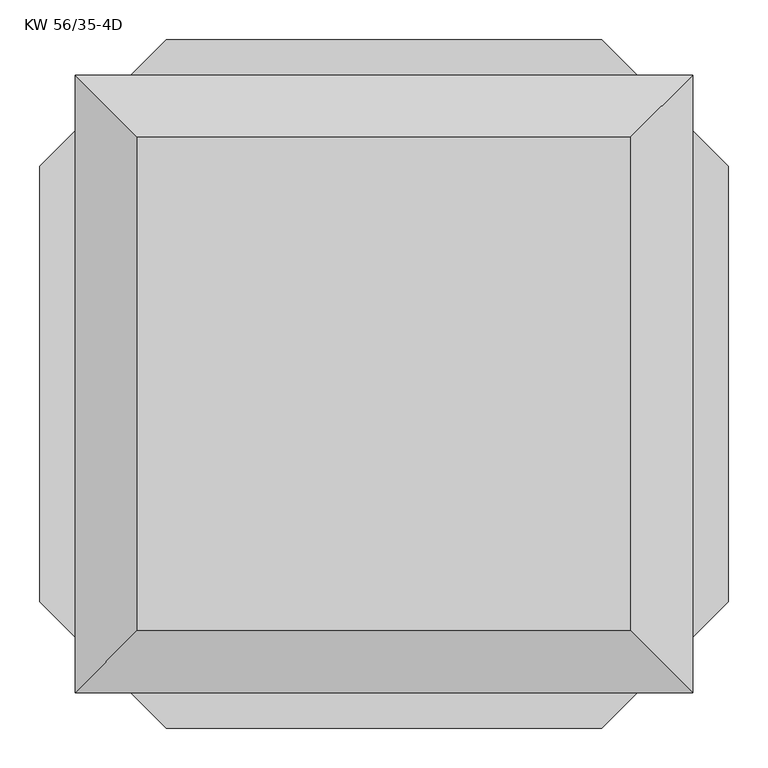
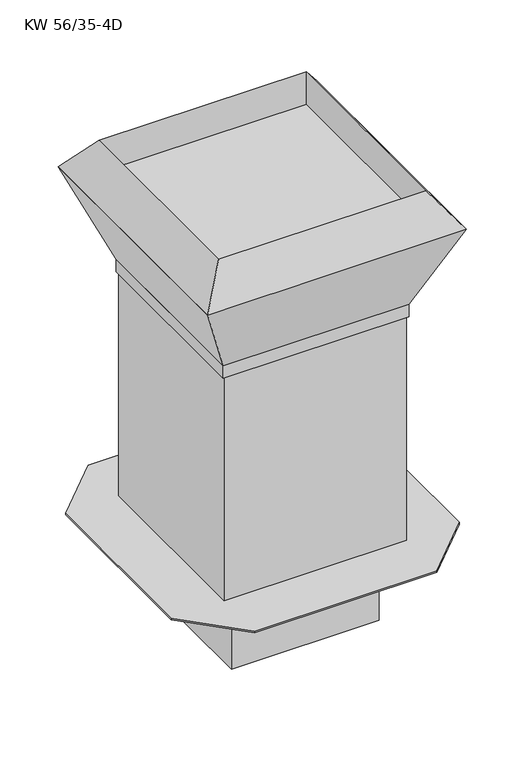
"""IFC4 building model written with IfcOpenShell, lengths in millimetres: proxy geometry, KORF_Вентилятор_Вытяжной_Крышный_KW : KW 56/35-4D."""

from ifc_helpers import new_model, si_unit, frame, origin, place, context, project, spatial, polyline, outline, extrude, faceted_brep, source, transform, mapped, element, save


def kw_56_35_4d_3cfab226(model_context):
    return source(origin(), model_context, "Body", "SolidModel", [
        faceted_brep([(222.5, 245.0, -1.0), (222.5, 222.5, -1.0), (-222.5, 222.5, -1.0), (-222.5, 245.0, -1.0), (222.5, -222.5, -1.0), (222.5, -245.0, -1.0), (-222.5, -245.0, -1.0), (-222.5, -222.5, -1.0), (-222.5, 245.0, 0.0), (222.5, 245.0, 0.0), (-222.5, 222.5, 0.0), (222.5, 222.5, 0.0), (-222.5, -245.0, 0.0), (-222.5, -222.5, 0.0), (222.5, -245.0, 0.0), (222.5, -222.5, 0.0), (-246.5, 222.5, 0.0), (-246.5, -222.5, 0.0), (245.0, -222.5, 0.0), (245.0, 222.5, 0.0), (221.0, 221.0, 0.0), (221.0, -221.0, 0.0), (-221.0, -221.0, 0.0), (-221.0, 221.0, 0.0), (-246.5, 222.5, -1.0), (-246.5, -222.5, -1.0), (245.0, -222.5, -1.0), (245.0, 222.5, -1.0), (222.5, -222.5, -264.0), (-222.5, -222.5, -264.0), (-222.5, 222.5, -264.0), (222.5, 222.5, -264.0), (221.0, 221.0, -264.0), (-221.0, 221.0, -264.0), (-221.0, -221.0, -264.0), (221.0, -221.0, -264.0)], [[[0, 1, 2, 3]], [[4, 5, 6, 7]], [[0, 3, 8, 9]], [[3, 2, 10, 8]], [[1, 0, 9, 11]], [[7, 6, 12, 13]], [[6, 5, 14, 12]], [[5, 4, 15, 14]], [[16, 17, 13, 12, 14, 15, 18, 19, 11, 9, 8, 10], [20, 21, 22, 23]], [[24, 2, 7, 25]], [[26, 4, 1, 27]], [[17, 16, 24, 25]], [[13, 17, 25, 7]], [[16, 10, 2, 24]], [[19, 18, 26, 27]], [[11, 19, 27, 1]], [[18, 15, 4, 26]], [[28, 29, 30, 31], [32, 33, 34, 35]], [[28, 31, 1, 4]], [[31, 30, 2, 1]], [[30, 29, 7, 2]], [[29, 28, 4, 7]], [[21, 20, 32, 35]], [[22, 21, 35, 34]], [[23, 22, 34, 33]], [[20, 23, 33, 32]]]),
        faceted_brep([(275.0, 275.0, 757.0), (-275.0, 275.0, 757.0), (-275.0, -275.0, 757.0), (275.0, -275.0, 757.0), (275.0, 435.0, 0.0), (435.0, 275.0, 0.0), (435.0, -275.0, 0.0), (275.0, -435.0, 0.0), (-275.0, -435.0, 0.0), (-435.0, -275.0, 0.0), (-435.0, 275.0, 0.0), (-275.0, 435.0, 0.0), (275.0, 275.0, 5.0), (-275.0, 275.0, 5.0), (-275.0, -275.0, 5.0), (275.0, -275.0, 5.0), (275.0, 435.0, 5.0), (-275.0, 435.0, 5.0), (-435.0, 275.0, 5.0), (-435.0, -275.0, 5.0), (-275.0, -435.0, 5.0), (275.0, -435.0, 5.0), (435.0, -275.0, 5.0), (435.0, 275.0, 5.0)], [[[0, 1, 2, 3]], [[4, 5, 6, 7, 8, 9, 10, 11]], [[1, 0, 12, 13]], [[2, 1, 13, 14]], [[3, 2, 14, 15]], [[0, 3, 15, 12]], [[16, 17, 18, 19, 20, 21, 22, 23], [13, 12, 15, 14]], [[17, 16, 4, 11]], [[18, 17, 11, 10]], [[19, 18, 10, 9]], [[20, 19, 9, 8]], [[21, 20, 8, 7]], [[22, 21, 7, 6]], [[23, 22, 6, 5]], [[16, 23, 5, 4]]]),
        faceted_brep([(390.0, 390.0, 1023.5), (390.0, -390.0, 1023.5), (-390.0, -390.0, 1023.5), (-390.0, 390.0, 1023.5), (312.0, 312.0, 1023.5), (-312.0, 312.0, 1023.5), (-312.0, -312.0, 1023.5), (312.0, -312.0, 1023.5), (-312.0, 312.0, 1127.0), (312.0, 312.0, 1127.0), (-312.0, -312.0, 1127.0), (312.0, -312.0, 1127.0)], [[[0, 1, 2, 3], [4, 5, 6, 7]], [[0, 3, 8, 9]], [[3, 2, 10, 8]], [[2, 1, 11, 10]], [[1, 0, 9, 11]], [[8, 5, 4, 9]], [[5, 8, 10, 6]], [[6, 10, 11, 7]], [[9, 4, 7, 11]]]),
        faceted_brep([(390.0, 390.0, 1023.5), (-390.0, 390.0, 1023.5), (-390.0, -390.0, 1023.5), (390.0, -390.0, 1023.5), (280.0, 280.0, 757.0), (280.0, -280.0, 757.0), (-280.0, -280.0, 757.0), (-280.0, 280.0, 757.0)], [[[0, 1, 2, 3]], [[4, 5, 6, 7]], [[4, 7, 1, 0]], [[7, 6, 2, 1]], [[6, 5, 3, 2]], [[5, 4, 0, 3]]]),
        extrude(outline(polyline([(280.0, 280.0), (280.0, -280.0), (-280.0, -280.0), (-280.0, 280.0), (280.0, 280.0)]), holes=[polyline([(278.0, 278.0), (-278.0, 278.0), (-278.0, -278.0), (278.0, -278.0), (278.0, 278.0)])]), frame((0.0, 0.0, 717.0), z_axis=(0.0, 0.0, 1.0), x_axis=(1.0, 0.0, 0.0)), (0.0, 0.0, 1.0), 40.0),
    ])


if __name__ == "__main__":
    model = new_model("IFC4")
    model_context = context("Model", 3, world=origin())
    ifc_project = project(units=[si_unit("LENGTHUNIT", "METRE", prefix="MILLI")], contexts=[model_context])
    site = spatial("IfcSite", under=ifc_project)
    building = spatial("IfcBuilding", under=site)
    placement = place(None, origin())
    kw_56_35_4d_shape = kw_56_35_4d_3cfab226(model_context)
    element("IfcBuildingElementProxy", 1, Name="KORF_Вентилятор_Вытяжной_Крышный_KW : KW 56/35-4D", ObjectType="KORF_Вентилятор_Вытяжной_Крышный_KW : KW 56/35-4D", at=placement, inside=building, context=model_context, shape_type="MappedRepresentation", body=[
        mapped(kw_56_35_4d_shape, transform((0.0, 0.0, 0.0), x_axis=(1.0, 0.0, 0.0), y_axis=(0.0, 1.0, 0.0), z_axis=(0.0, 0.0, 1.0))),
    ])
    save(model, "model.ifc")
